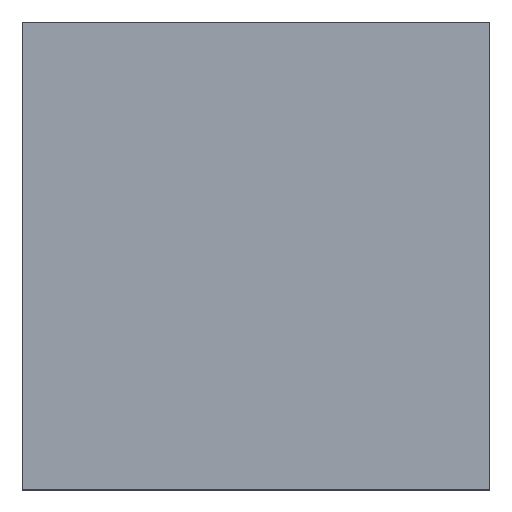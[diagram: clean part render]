
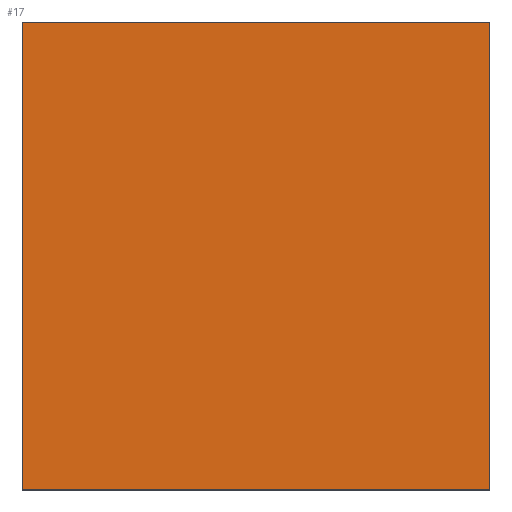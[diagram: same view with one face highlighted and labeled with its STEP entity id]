
A CAD part, top view. The second image highlights one B-rep face of the part: STEP entity #17.
In plain terms, the highlighted planar face has unit normal (0, 0, 1).
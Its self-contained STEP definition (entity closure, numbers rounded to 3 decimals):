
#17 = ADVANCED_FACE('',(#18),#32,.T.);
#18 = FACE_BOUND('',#19,.T.);
#19 = EDGE_LOOP('',(#20,#55,#83,#111));
#20 = ORIENTED_EDGE('',*,*,#21,.T.);
#21 = EDGE_CURVE('',#22,#24,#26,.T.);
#22 = VERTEX_POINT('',#23);
#23 = CARTESIAN_POINT('',(11.15,17.25,-15.637));
#24 = VERTEX_POINT('',#25);
#25 = CARTESIAN_POINT('',(11.15,20.55,-15.637));
#26 = SURFACE_CURVE('',#27,(#31,#43),.PCURVE_S1.);
#27 = LINE('',#28,#29);
#28 = CARTESIAN_POINT('',(11.15,18.9,-15.637));
#29 = VECTOR('',#30,1.);
#30 = DIRECTION('',(0.,1.,0.));
#31 = PCURVE('',#32,#37);
#32 = PLANE('',#33);
#33 = AXIS2_PLACEMENT_3D('',#34,#35,#36);
#34 = CARTESIAN_POINT('',(9.5,18.9,-15.637));
#35 = DIRECTION('',(0.,0.,1.));
#36 = DIRECTION('',(1.,0.,0.));
#37 = DEFINITIONAL_REPRESENTATION('',(#38),#42);
#38 = LINE('',#39,#40);
#39 = CARTESIAN_POINT('',(1.65,0.));
#40 = VECTOR('',#41,1.);
#41 = DIRECTION('',(0.,1.));
#42 = ( GEOMETRIC_REPRESENTATION_CONTEXT(2) 
PARAMETRIC_REPRESENTATION_CONTEXT() REPRESENTATION_CONTEXT('2D SPACE',''
  ) );
#43 = PCURVE('',#44,#49);
#44 = PLANE('',#45);
#45 = AXIS2_PLACEMENT_3D('',#46,#47,#48);
#46 = CARTESIAN_POINT('',(11.15,18.9,-16.837));
#47 = DIRECTION('',(-1.,0.,0.));
#48 = DIRECTION('',(0.,0.,1.));
#49 = DEFINITIONAL_REPRESENTATION('',(#50),#54);
#50 = LINE('',#51,#52);
#51 = CARTESIAN_POINT('',(1.2,0.));
#52 = VECTOR('',#53,1.);
#53 = DIRECTION('',(0.,1.));
#54 = ( GEOMETRIC_REPRESENTATION_CONTEXT(2) 
PARAMETRIC_REPRESENTATION_CONTEXT() REPRESENTATION_CONTEXT('2D SPACE',''
  ) );
#55 = ORIENTED_EDGE('',*,*,#56,.T.);
#56 = EDGE_CURVE('',#24,#57,#59,.T.);
#57 = VERTEX_POINT('',#58);
#58 = CARTESIAN_POINT('',(7.85,20.55,-15.637));
#59 = SURFACE_CURVE('',#60,(#64,#71),.PCURVE_S1.);
#60 = LINE('',#61,#62);
#61 = CARTESIAN_POINT('',(9.5,20.55,-15.637));
#62 = VECTOR('',#63,1.);
#63 = DIRECTION('',(-1.,0.,0.));
#64 = PCURVE('',#32,#65);
#65 = DEFINITIONAL_REPRESENTATION('',(#66),#70);
#66 = LINE('',#67,#68);
#67 = CARTESIAN_POINT('',(0.,1.65));
#68 = VECTOR('',#69,1.);
#69 = DIRECTION('',(-1.,0.));
#70 = ( GEOMETRIC_REPRESENTATION_CONTEXT(2) 
PARAMETRIC_REPRESENTATION_CONTEXT() REPRESENTATION_CONTEXT('2D SPACE',''
  ) );
#71 = PCURVE('',#72,#77);
#72 = PLANE('',#73);
#73 = AXIS2_PLACEMENT_3D('',#74,#75,#76);
#74 = CARTESIAN_POINT('',(9.5,20.55,-16.837));
#75 = DIRECTION('',(0.,-1.,0.));
#76 = DIRECTION('',(0.,0.,-1.));
#77 = DEFINITIONAL_REPRESENTATION('',(#78),#82);
#78 = LINE('',#79,#80);
#79 = CARTESIAN_POINT('',(-1.2,0.));
#80 = VECTOR('',#81,1.);
#81 = DIRECTION('',(0.,-1.));
#82 = ( GEOMETRIC_REPRESENTATION_CONTEXT(2) 
PARAMETRIC_REPRESENTATION_CONTEXT() REPRESENTATION_CONTEXT('2D SPACE',''
  ) );
#83 = ORIENTED_EDGE('',*,*,#84,.T.);
#84 = EDGE_CURVE('',#57,#85,#87,.T.);
#85 = VERTEX_POINT('',#86);
#86 = CARTESIAN_POINT('',(7.85,17.25,-15.637));
#87 = SURFACE_CURVE('',#88,(#92,#99),.PCURVE_S1.);
#88 = LINE('',#89,#90);
#89 = CARTESIAN_POINT('',(7.85,18.9,-15.637));
#90 = VECTOR('',#91,1.);
#91 = DIRECTION('',(0.,-1.,0.));
#92 = PCURVE('',#32,#93);
#93 = DEFINITIONAL_REPRESENTATION('',(#94),#98);
#94 = LINE('',#95,#96);
#95 = CARTESIAN_POINT('',(-1.65,0.));
#96 = VECTOR('',#97,1.);
#97 = DIRECTION('',(0.,-1.));
#98 = ( GEOMETRIC_REPRESENTATION_CONTEXT(2) 
PARAMETRIC_REPRESENTATION_CONTEXT() REPRESENTATION_CONTEXT('2D SPACE',''
  ) );
#99 = PCURVE('',#100,#105);
#100 = PLANE('',#101);
#101 = AXIS2_PLACEMENT_3D('',#102,#103,#104);
#102 = CARTESIAN_POINT('',(7.85,18.9,-16.837));
#103 = DIRECTION('',(1.,0.,0.));
#104 = DIRECTION('',(0.,0.,-1.));
#105 = DEFINITIONAL_REPRESENTATION('',(#106),#110);
#106 = LINE('',#107,#108);
#107 = CARTESIAN_POINT('',(-1.2,0.));
#108 = VECTOR('',#109,1.);
#109 = DIRECTION('',(0.,-1.));
#110 = ( GEOMETRIC_REPRESENTATION_CONTEXT(2) 
PARAMETRIC_REPRESENTATION_CONTEXT() REPRESENTATION_CONTEXT('2D SPACE',''
  ) );
#111 = ORIENTED_EDGE('',*,*,#112,.T.);
#112 = EDGE_CURVE('',#85,#22,#113,.T.);
#113 = SURFACE_CURVE('',#114,(#118,#125),.PCURVE_S1.);
#114 = LINE('',#115,#116);
#115 = CARTESIAN_POINT('',(9.5,17.25,-15.637));
#116 = VECTOR('',#117,1.);
#117 = DIRECTION('',(1.,0.,0.));
#118 = PCURVE('',#32,#119);
#119 = DEFINITIONAL_REPRESENTATION('',(#120),#124);
#120 = LINE('',#121,#122);
#121 = CARTESIAN_POINT('',(0.,-1.65));
#122 = VECTOR('',#123,1.);
#123 = DIRECTION('',(1.,0.));
#124 = ( GEOMETRIC_REPRESENTATION_CONTEXT(2) 
PARAMETRIC_REPRESENTATION_CONTEXT() REPRESENTATION_CONTEXT('2D SPACE',''
  ) );
#125 = PCURVE('',#126,#131);
#126 = PLANE('',#127);
#127 = AXIS2_PLACEMENT_3D('',#128,#129,#130);
#128 = CARTESIAN_POINT('',(9.5,17.25,-16.837));
#129 = DIRECTION('',(0.,1.,0.));
#130 = DIRECTION('',(0.,0.,1.));
#131 = DEFINITIONAL_REPRESENTATION('',(#132),#136);
#132 = LINE('',#133,#134);
#133 = CARTESIAN_POINT('',(1.2,0.));
#134 = VECTOR('',#135,1.);
#135 = DIRECTION('',(0.,1.));
#136 = ( GEOMETRIC_REPRESENTATION_CONTEXT(2) 
PARAMETRIC_REPRESENTATION_CONTEXT() REPRESENTATION_CONTEXT('2D SPACE',''
  ) );
